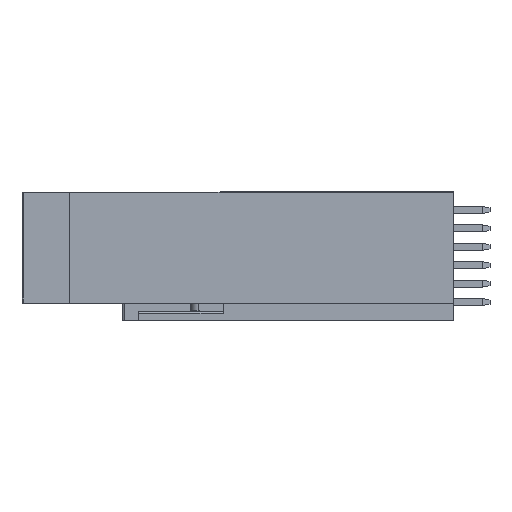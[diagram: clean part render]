
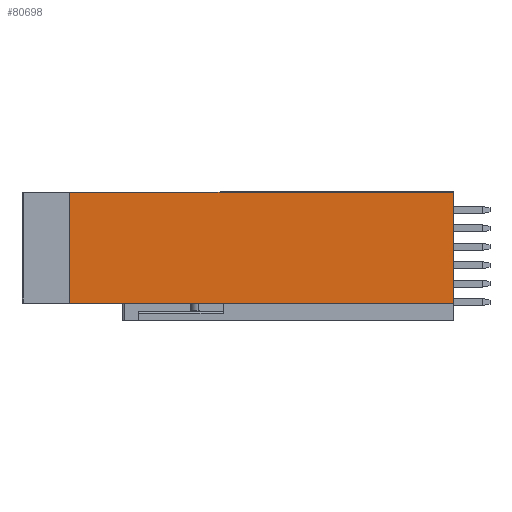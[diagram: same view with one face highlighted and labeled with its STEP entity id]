
A CAD part, left-side view. The second image highlights one B-rep face of the part: STEP entity #80698.
In plain terms, the highlighted planar face has unit normal (-1, 0, 0).
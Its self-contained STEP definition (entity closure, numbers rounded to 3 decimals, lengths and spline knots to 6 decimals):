
#1280=DIRECTION('',(0.,0.,-1.));
#1281=VECTOR('',#1280,0.015);
#1282=CARTESIAN_POINT('',(-0.0112,0.052,-0.00013));
#1283=LINE('',#1282,#1281);
#1284=DIRECTION('',(0.,1.,0.));
#1285=VECTOR('',#1284,0.052);
#1286=CARTESIAN_POINT('',(-0.0112,0.,-0.00013));
#1287=LINE('',#1286,#1285);
#1288=DIRECTION('',(0.,0.,1.));
#1289=VECTOR('',#1288,0.015);
#1290=CARTESIAN_POINT('',(-0.0112,0.,-0.01513));
#1291=LINE('',#1290,#1289);
#1292=DIRECTION('',(0.,-1.,0.));
#1293=VECTOR('',#1292,0.052);
#1294=CARTESIAN_POINT('',(-0.0112,0.052,-0.01513));
#1295=LINE('',#1294,#1293);
#71005=CARTESIAN_POINT('',(-0.0112,0.,-0.00013));
#71007=VERTEX_POINT('',#71005);
#71008=CARTESIAN_POINT('',(-0.0112,0.052,-0.00013));
#71009=VERTEX_POINT('',#71008);
#71032=CARTESIAN_POINT('',(-0.0112,0.,-0.01513));
#71033=VERTEX_POINT('',#71032);
#71138=CARTESIAN_POINT('',(-0.0112,0.052,-0.01513));
#71139=VERTEX_POINT('',#71138);
#80685=CARTESIAN_POINT('',(-0.0112,0.,-0.00001));
#80686=DIRECTION('',(-1.,0.,0.));
#80687=DIRECTION('',(0.,0.,-1.));
#80688=AXIS2_PLACEMENT_3D('',#80685,#80686,#80687);
#80689=PLANE('',#80688);
#80691=ORIENTED_EDGE('',*,*,#80690,.F.);
#80692=ORIENTED_EDGE('',*,*,#80660,.F.);
#80693=ORIENTED_EDGE('',*,*,#79656,.F.);
#80695=ORIENTED_EDGE('',*,*,#80694,.F.);
#80696=EDGE_LOOP('',(#80691,#80692,#80693,#80695));
#80697=FACE_OUTER_BOUND('',#80696,.F.);
#80698=ADVANCED_FACE('',(#80697),#80689,.T.);
#79656=EDGE_CURVE('',#71033,#71007,#1291,.T.);
#80660=EDGE_CURVE('',#71007,#71009,#1287,.T.);
#80690=EDGE_CURVE('',#71009,#71139,#1283,.T.);
#80694=EDGE_CURVE('',#71139,#71033,#1295,.T.);
